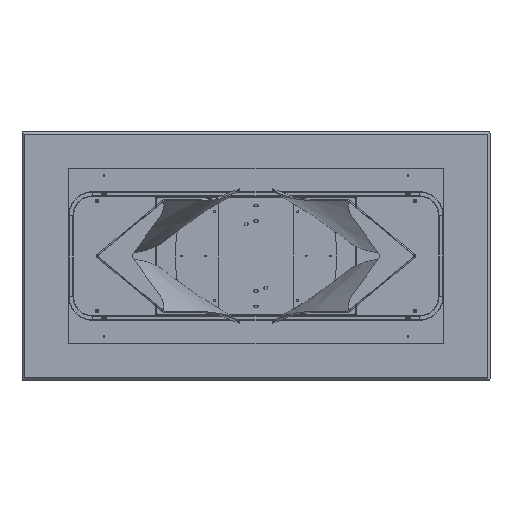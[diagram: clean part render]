
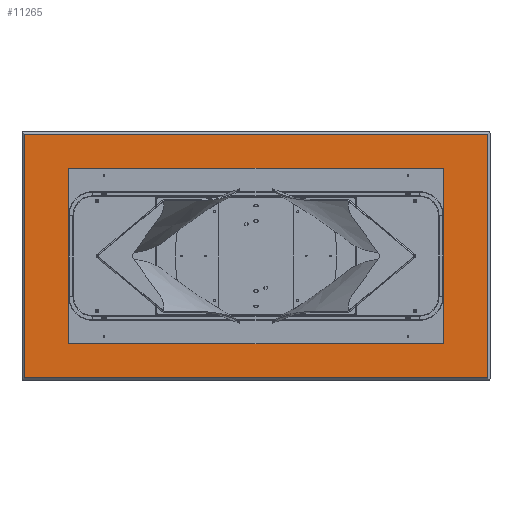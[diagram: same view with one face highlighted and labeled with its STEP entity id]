
A CAD part, front view. The second image highlights one B-rep face of the part: STEP entity #11265.
In plain terms, the highlighted planar face has unit normal (0, -1, 0).
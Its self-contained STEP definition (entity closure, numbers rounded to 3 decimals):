
#28 = EDGE_CURVE ( 'NONE', #17405, #229, #20354, .T. ) ;
#73 = VERTEX_POINT ( 'NONE', #15627 ) ;
#229 = VERTEX_POINT ( 'NONE', #22215 ) ;
#287 = DIRECTION ( 'NONE',  ( 0., -1., 0. ) ) ;
#303 = VERTEX_POINT ( 'NONE', #8702 ) ;
#341 = ORIENTED_EDGE ( 'NONE', *, *, #17219, .F. ) ;
#411 = FACE_BOUND ( 'NONE', #4296, .T. ) ;
#664 = PLANE ( 'NONE',  #13858 ) ;
#796 = DIRECTION ( 'NONE',  ( 0., 0., -1. ) ) ;
#1020 = CARTESIAN_POINT ( 'NONE',  ( -990., 0., 520. ) ) ;
#1409 = CARTESIAN_POINT ( 'NONE',  ( 990., 0., -520. ) ) ;
#1604 = CARTESIAN_POINT ( 'NONE',  ( -680., 0., -235. ) ) ;
#1654 = EDGE_LOOP ( 'NONE', ( #2816, #21978 ) ) ;
#2010 = CIRCLE ( 'NONE', #10452, 2.5 ) ;
#2073 = CIRCLE ( 'NONE', #25329, 2.5 ) ;
#2263 = FACE_OUTER_BOUND ( 'NONE', #10550, .T. ) ;
#2404 = DIRECTION ( 'NONE',  ( 0., 0., -1. ) ) ;
#2458 = VERTEX_POINT ( 'NONE', #1409 ) ;
#2523 = CIRCLE ( 'NONE', #13946, 2.5 ) ;
#2800 = VERTEX_POINT ( 'NONE', #8938 ) ;
#2816 = ORIENTED_EDGE ( 'NONE', *, *, #16360, .F. ) ;
#2846 = DIRECTION ( 'NONE',  ( 0., -1., 0. ) ) ;
#3772 = EDGE_CURVE ( 'NONE', #20518, #2458, #21647, .T. ) ;
#4296 = EDGE_LOOP ( 'NONE', ( #12697, #25172 ) ) ;
#4655 = ORIENTED_EDGE ( 'NONE', *, *, #5651, .F. ) ;
#5367 = VERTEX_POINT ( 'NONE', #11584 ) ;
#5461 = DIRECTION ( 'NONE',  ( 0., -1., 0. ) ) ;
#5651 = EDGE_CURVE ( 'NONE', #25118, #303, #25994, .T. ) ;
#5751 = CARTESIAN_POINT ( 'NONE',  ( 990., 0., 520. ) ) ;
#5761 = AXIS2_PLACEMENT_3D ( 'NONE', #1604, #25575, #18031 ) ;
#6220 = EDGE_LOOP ( 'NONE', ( #8111, #4655 ) ) ;
#6346 = ORIENTED_EDGE ( 'NONE', *, *, #16106, .F. ) ;
#6981 = AXIS2_PLACEMENT_3D ( 'NONE', #13306, #2846, #7076 ) ;
#7076 = DIRECTION ( 'NONE',  ( 0., 0., -1. ) ) ;
#7198 = LINE ( 'NONE', #19266, #17376 ) ;
#7376 = LINE ( 'NONE', #21803, #16491 ) ;
#7666 = CARTESIAN_POINT ( 'NONE',  ( 680., 0., -232.5 ) ) ;
#8111 = ORIENTED_EDGE ( 'NONE', *, *, #11299, .F. ) ;
#8702 = CARTESIAN_POINT ( 'NONE',  ( 680., 0., -237.5 ) ) ;
#8938 = CARTESIAN_POINT ( 'NONE',  ( -680., 0., -237.5 ) ) ;
#9431 = CARTESIAN_POINT ( 'NONE',  ( -680., 0., -235. ) ) ;
#9776 = EDGE_CURVE ( 'NONE', #73, #2800, #13397, .T. ) ;
#10333 = DIRECTION ( 'NONE',  ( 0., 0., 1. ) ) ;
#10452 = AXIS2_PLACEMENT_3D ( 'NONE', #22780, #287, #796 ) ;
#10550 = EDGE_LOOP ( 'NONE', ( #25069, #24011, #21914, #16333 ) ) ;
#10605 = CIRCLE ( 'NONE', #19933, 2.5 ) ;
#10764 = CARTESIAN_POINT ( 'NONE',  ( 990., 0., 0. ) ) ;
#11265 = ADVANCED_FACE ( 'NONE', ( #22647, #411, #18683, #20402, #2263 ), #664, .F. ) ;
#11299 = EDGE_CURVE ( 'NONE', #303, #25118, #2010, .T. ) ;
#11547 = DIRECTION ( 'NONE',  ( -1., 0., 0. ) ) ;
#11584 = CARTESIAN_POINT ( 'NONE',  ( 680., 0., 237.5 ) ) ;
#11781 = AXIS2_PLACEMENT_3D ( 'NONE', #16350, #22420, #12613 ) ;
#11815 = EDGE_LOOP ( 'NONE', ( #6346, #341 ) ) ;
#12613 = DIRECTION ( 'NONE',  ( 0., 0., -1. ) ) ;
#12697 = ORIENTED_EDGE ( 'NONE', *, *, #20885, .F. ) ;
#13161 = DIRECTION ( 'NONE',  ( 0., 0., 1. ) ) ;
#13306 = CARTESIAN_POINT ( 'NONE',  ( 680., 0., -235. ) ) ;
#13374 = DIRECTION ( 'NONE',  ( 0., -1., 0. ) ) ;
#13397 = CIRCLE ( 'NONE', #5761, 2.5 ) ;
#13613 = CARTESIAN_POINT ( 'NONE',  ( 680., 0., 235. ) ) ;
#13722 = CARTESIAN_POINT ( 'NONE',  ( 0., 0., -520. ) ) ;
#13858 = AXIS2_PLACEMENT_3D ( 'NONE', #14337, #14729, #10333 ) ;
#13870 = VECTOR ( 'NONE', #13161, 1000. ) ;
#13946 = AXIS2_PLACEMENT_3D ( 'NONE', #13613, #21420, #17462 ) ;
#14125 = VERTEX_POINT ( 'NONE', #5751 ) ;
#14337 = CARTESIAN_POINT ( 'NONE',  ( 0., 0., 0. ) ) ;
#14343 = DIRECTION ( 'NONE',  ( 0., -1., 0. ) ) ;
#14346 = CIRCLE ( 'NONE', #11781, 2.5 ) ;
#14539 = EDGE_CURVE ( 'NONE', #2458, #14125, #15286, .T. ) ;
#14729 = DIRECTION ( 'NONE',  ( 0., 1., 0. ) ) ;
#15013 = VECTOR ( 'NONE', #21780, 1000. ) ;
#15286 = LINE ( 'NONE', #10764, #13870 ) ;
#15627 = CARTESIAN_POINT ( 'NONE',  ( -680., 0., -232.5 ) ) ;
#15742 = DIRECTION ( 'NONE',  ( 0., 0., -1. ) ) ;
#16106 = EDGE_CURVE ( 'NONE', #20389, #5367, #14346, .T. ) ;
#16131 = CARTESIAN_POINT ( 'NONE',  ( -680., 0., 237.5 ) ) ;
#16333 = ORIENTED_EDGE ( 'NONE', *, *, #20732, .T. ) ;
#16350 = CARTESIAN_POINT ( 'NONE',  ( 680., 0., 235. ) ) ;
#16360 = EDGE_CURVE ( 'NONE', #229, #17405, #2073, .T. ) ;
#16491 = VECTOR ( 'NONE', #15742, 1000. ) ;
#16993 = AXIS2_PLACEMENT_3D ( 'NONE', #23294, #13374, #23554 ) ;
#17102 = EDGE_CURVE ( 'NONE', #21580, #20518, #7376, .T. ) ;
#17219 = EDGE_CURVE ( 'NONE', #5367, #20389, #2523, .T. ) ;
#17376 = VECTOR ( 'NONE', #11547, 1000. ) ;
#17405 = VERTEX_POINT ( 'NONE', #16131 ) ;
#17462 = DIRECTION ( 'NONE',  ( 0., 0., -1. ) ) ;
#17670 = DIRECTION ( 'NONE',  ( 0., 0., -1. ) ) ;
#18031 = DIRECTION ( 'NONE',  ( 0., 0., -1. ) ) ;
#18683 = FACE_BOUND ( 'NONE', #1654, .T. ) ;
#19266 = CARTESIAN_POINT ( 'NONE',  ( 0., 0., 520. ) ) ;
#19933 = AXIS2_PLACEMENT_3D ( 'NONE', #9431, #5461, #17670 ) ;
#20354 = CIRCLE ( 'NONE', #16993, 2.5 ) ;
#20389 = VERTEX_POINT ( 'NONE', #23770 ) ;
#20402 = FACE_BOUND ( 'NONE', #11815, .T. ) ;
#20518 = VERTEX_POINT ( 'NONE', #22566 ) ;
#20534 = CARTESIAN_POINT ( 'NONE',  ( -680., 0., 235. ) ) ;
#20732 = EDGE_CURVE ( 'NONE', #14125, #21580, #7198, .T. ) ;
#20885 = EDGE_CURVE ( 'NONE', #2800, #73, #10605, .T. ) ;
#21420 = DIRECTION ( 'NONE',  ( 0., -1., 0. ) ) ;
#21580 = VERTEX_POINT ( 'NONE', #1020 ) ;
#21647 = LINE ( 'NONE', #13722, #15013 ) ;
#21780 = DIRECTION ( 'NONE',  ( 1., 0., 0. ) ) ;
#21803 = CARTESIAN_POINT ( 'NONE',  ( -990., 0., 0. ) ) ;
#21914 = ORIENTED_EDGE ( 'NONE', *, *, #14539, .T. ) ;
#21978 = ORIENTED_EDGE ( 'NONE', *, *, #28, .F. ) ;
#22215 = CARTESIAN_POINT ( 'NONE',  ( -680., 0., 232.5 ) ) ;
#22420 = DIRECTION ( 'NONE',  ( 0., -1., 0. ) ) ;
#22566 = CARTESIAN_POINT ( 'NONE',  ( -990., 0., -520. ) ) ;
#22647 = FACE_BOUND ( 'NONE', #6220, .T. ) ;
#22780 = CARTESIAN_POINT ( 'NONE',  ( 680., 0., -235. ) ) ;
#23294 = CARTESIAN_POINT ( 'NONE',  ( -680., 0., 235. ) ) ;
#23554 = DIRECTION ( 'NONE',  ( 0., 0., -1. ) ) ;
#23770 = CARTESIAN_POINT ( 'NONE',  ( 680., 0., 232.5 ) ) ;
#24011 = ORIENTED_EDGE ( 'NONE', *, *, #3772, .T. ) ;
#25069 = ORIENTED_EDGE ( 'NONE', *, *, #17102, .T. ) ;
#25118 = VERTEX_POINT ( 'NONE', #7666 ) ;
#25172 = ORIENTED_EDGE ( 'NONE', *, *, #9776, .F. ) ;
#25329 = AXIS2_PLACEMENT_3D ( 'NONE', #20534, #14343, #2404 ) ;
#25575 = DIRECTION ( 'NONE',  ( 0., -1., 0. ) ) ;
#25994 = CIRCLE ( 'NONE', #6981, 2.5 ) ;
